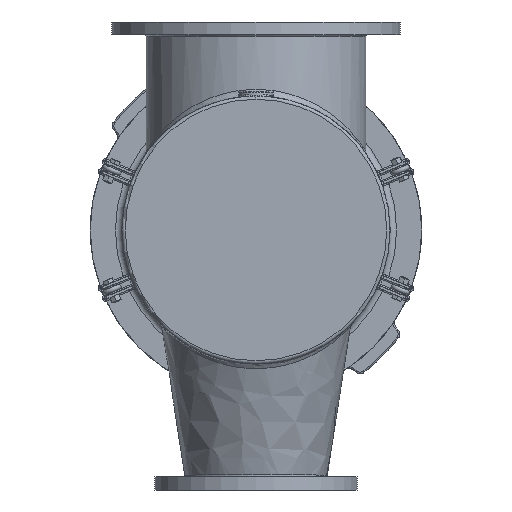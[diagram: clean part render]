
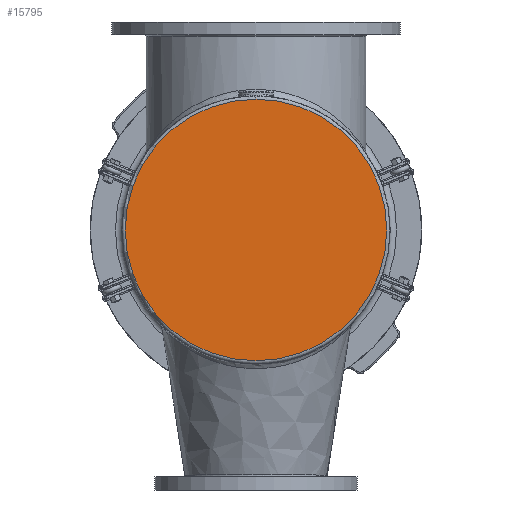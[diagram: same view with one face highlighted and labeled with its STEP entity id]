
A CAD part, front view. The second image highlights one B-rep face of the part: STEP entity #15795.
In plain terms, the highlighted planar face has unit normal (0, -1, 0).
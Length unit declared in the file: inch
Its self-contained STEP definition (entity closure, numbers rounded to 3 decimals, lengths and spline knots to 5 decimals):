
#2254=PLANE('',#16849);
#3595=FACE_OUTER_BOUND('',#4603,.T.);
#4603=EDGE_LOOP('',(#10536));
#5841=CIRCLE('',#16841,10.0625);
#6803=VERTEX_POINT('',#24049);
#8243=EDGE_CURVE('',#6803,#6803,#5841,.T.);
#10536=ORIENTED_EDGE('',*,*,#8243,.F.);
#15795=ADVANCED_FACE('',(#3595),#2254,.F.);
#16841=AXIS2_PLACEMENT_3D('',#24050,#18883,#18884);
#16849=AXIS2_PLACEMENT_3D('',#24061,#18899,#18900);
#18883=DIRECTION('center_axis',(0.,1.,0.));
#18884=DIRECTION('ref_axis',(1.,0.,0.));
#18899=DIRECTION('center_axis',(0.,1.,0.));
#18900=DIRECTION('ref_axis',(0.,0.,1.));
#24049=CARTESIAN_POINT('',(-10.0625,0.,0.));
#24050=CARTESIAN_POINT('Origin',(0.,0.,0.));
#24061=CARTESIAN_POINT('Origin',(0.,0.,0.));
